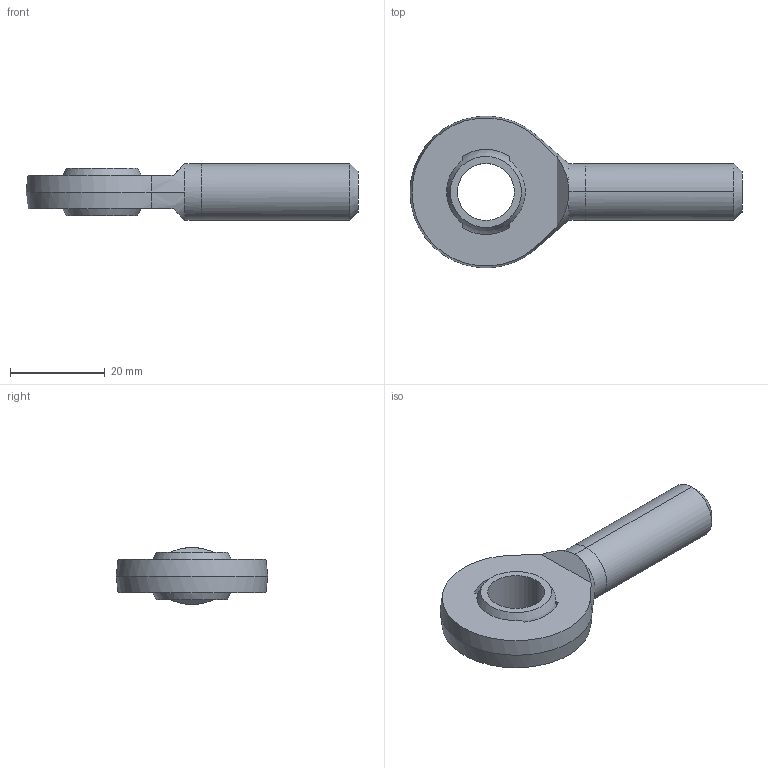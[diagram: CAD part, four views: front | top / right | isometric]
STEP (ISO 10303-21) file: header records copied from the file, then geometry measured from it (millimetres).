
FILE_DESCRIPTION (( 'STEP AP203' ), '1' );
FILE_NAME ('65860.W0012.step', '2014-02-06T11:43:37', ( 'User' ), ( '' ), 'SwSTEP 2.0', 'SolidWorks 2009', '' );
FILE_SCHEMA (( 'CONFIG_CONTROL_DESIGN' ));
Length unit declared in the file: millimetre
Products named in the file (3): Part1_65860.W0012; Part2_65860.W0012; 65860.W0012
Assembly tree (2 placements, depth 2):
  65860.W0012
    Part1_65860.W0012
    Part2_65860.W0012
Bounding box: 70 x 31.94 x 12 mm (x, y, z)
Volume: 9348.1 mm3; surface area: 4732.5 mm2
Topology: 2 solids, 2 shells, 35 faces, 82 edges, 51 vertices
Faces by surface type: plane 15, sphere 8, cylinder 8, cone 4
Entity records: 1349 total; most frequent: CARTESIAN_POINT 223, DIRECTION 196, ORIENTED_EDGE 160, AXIS2_PLACEMENT_3D 84, EDGE_CURVE 80, VERTEX_POINT 51, CIRCLE 44, EDGE_LOOP 41
